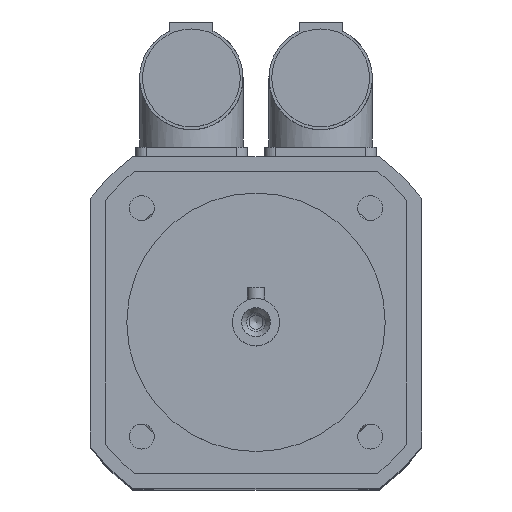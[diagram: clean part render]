
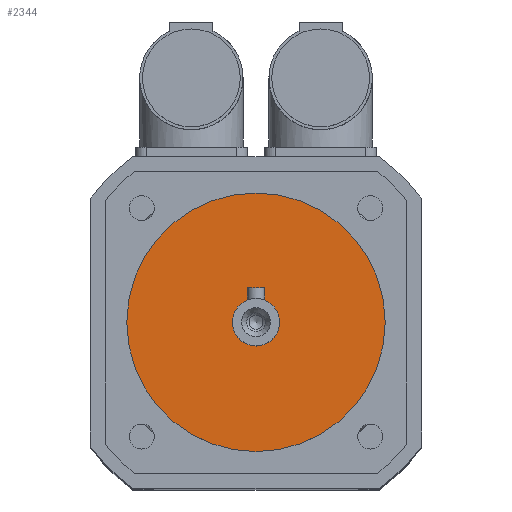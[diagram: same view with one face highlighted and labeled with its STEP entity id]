
A CAD part, top view. The second image highlights one B-rep face of the part: STEP entity #2344.
In plain terms, the highlighted planar face has unit normal (0, 0, 1).
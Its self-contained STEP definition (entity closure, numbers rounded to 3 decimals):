
#472=PLANE('',#2526);
#587=FACE_BOUND('',#805,.T.);
#653=FACE_OUTER_BOUND('',#804,.T.);
#804=EDGE_LOOP('',(#1839));
#805=EDGE_LOOP('',(#1840));
#951=CIRCLE('',#2525,5.5);
#952=CIRCLE('',#2527,30.);
#1114=VERTEX_POINT('',#3730);
#1115=VERTEX_POINT('',#3733);
#1385=EDGE_CURVE('',#1114,#1114,#951,.T.);
#1386=EDGE_CURVE('',#1115,#1115,#952,.T.);
#1839=ORIENTED_EDGE('',*,*,#1386,.F.);
#1840=ORIENTED_EDGE('',*,*,#1385,.T.);
#2344=ADVANCED_FACE('',(#653,#587),#472,.T.);
#2525=AXIS2_PLACEMENT_3D('',#3731,#2946,#2947);
#2526=AXIS2_PLACEMENT_3D('',#3732,#2948,#2949);
#2527=AXIS2_PLACEMENT_3D('',#3734,#2950,#2951);
#2946=DIRECTION('center_axis',(0.,0.,-1.));
#2947=DIRECTION('ref_axis',(1.,0.,0.));
#2948=DIRECTION('center_axis',(0.,0.,1.));
#2949=DIRECTION('ref_axis',(1.,0.,0.));
#2950=DIRECTION('center_axis',(0.,0.,-1.));
#2951=DIRECTION('ref_axis',(1.,0.,0.));
#3730=CARTESIAN_POINT('',(0.,5.5,188.5));
#3731=CARTESIAN_POINT('Origin',(0.,0.,188.5));
#3732=CARTESIAN_POINT('Origin',(0.,30.,188.5));
#3733=CARTESIAN_POINT('',(0.,30.,188.5));
#3734=CARTESIAN_POINT('Origin',(0.,0.,188.5));
